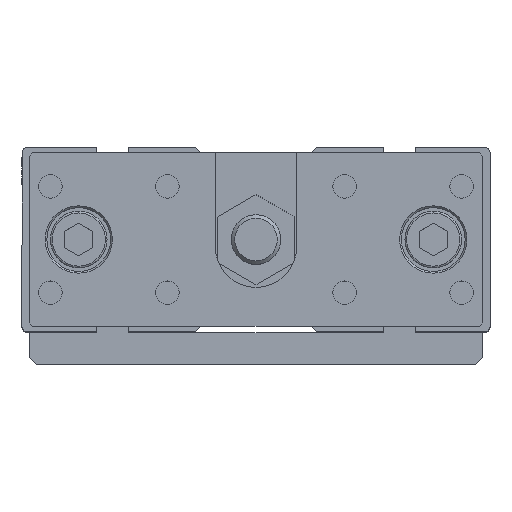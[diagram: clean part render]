
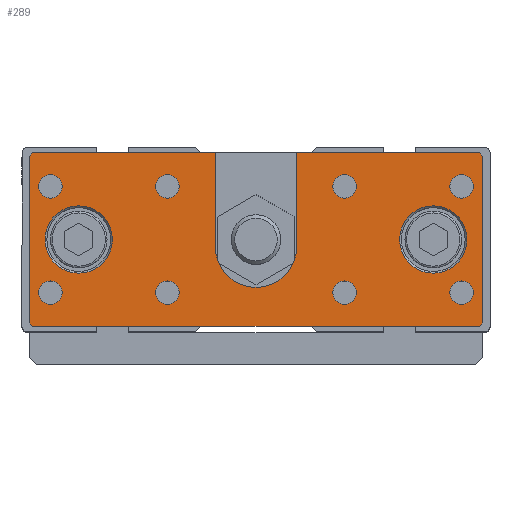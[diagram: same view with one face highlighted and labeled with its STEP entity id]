
A CAD part, top view. The second image highlights one B-rep face of the part: STEP entity #289.
In plain terms, the highlighted planar face has unit normal (0, 0, 1).
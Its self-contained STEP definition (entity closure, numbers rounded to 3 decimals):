
#59=CARTESIAN_POINT('',(-63.,-24.5,107.0));
#60=VERTEX_POINT('',#59);
#67=CARTESIAN_POINT('',(-64.0,-23.5,107.0));
#68=VERTEX_POINT('',#67);
#69=CARTESIAN_POINT('',(-63.,-24.5,107.0));
#70=DIRECTION('',(-0.707,0.707,0.0));
#71=VECTOR('',#70,1.414);
#72=LINE('',#69,#71);
#73=EDGE_CURVE('',#60,#68,#72,.T.);
#84=CARTESIAN_POINT('',(0.0,-24.5,107.0));
#85=DIRECTION('',(0.0,0.0,1.0));
#86=DIRECTION('',(1.0,0.0,0.0));
#87=AXIS2_PLACEMENT_3D('',#84,#85,#86);
#88=PLANE('',#87);
#89=ORIENTED_EDGE('',*,*,#73,.F.);
#90=CARTESIAN_POINT('',(63.,-24.5,107.0));
#91=VERTEX_POINT('',#90);
#92=CARTESIAN_POINT('',(-63.,-24.5,107.0));
#93=DIRECTION('',(1.0,0.0,0.0));
#94=VECTOR('',#93,126.);
#95=LINE('',#92,#94);
#96=EDGE_CURVE('',#60,#91,#95,.T.);
#97=ORIENTED_EDGE('',*,*,#96,.T.);
#98=CARTESIAN_POINT('',(64.0,-23.5,107.0));
#99=VERTEX_POINT('',#98);
#100=CARTESIAN_POINT('',(64.0,-23.5,107.0));
#101=DIRECTION('',(-0.707,-0.707,0.0));
#102=VECTOR('',#101,1.414);
#103=LINE('',#100,#102);
#104=EDGE_CURVE('',#99,#91,#103,.T.);
#105=ORIENTED_EDGE('',*,*,#104,.F.);
#106=CARTESIAN_POINT('',(64.0,23.5,107.0));
#107=VERTEX_POINT('',#106);
#108=CARTESIAN_POINT('',(64.0,-23.5,107.0));
#109=DIRECTION('',(0.0,1.0,0.0));
#110=VECTOR('',#109,47.);
#111=LINE('',#108,#110);
#112=EDGE_CURVE('',#99,#107,#111,.T.);
#113=ORIENTED_EDGE('',*,*,#112,.T.);
#114=CARTESIAN_POINT('',(63.,24.5,107.0));
#115=VERTEX_POINT('',#114);
#116=CARTESIAN_POINT('',(63.,24.5,107.0));
#117=DIRECTION('',(0.707,-0.707,0.0));
#118=VECTOR('',#117,1.414);
#119=LINE('',#116,#118);
#120=EDGE_CURVE('',#115,#107,#119,.T.);
#121=ORIENTED_EDGE('',*,*,#120,.F.);
#122=CARTESIAN_POINT('',(11.5,24.5,107.0));
#123=VERTEX_POINT('',#122);
#124=CARTESIAN_POINT('',(63.,24.5,107.0));
#125=DIRECTION('',(-1.0,0.0,0.0));
#126=VECTOR('',#125,51.5);
#127=LINE('',#124,#126);
#128=EDGE_CURVE('',#115,#123,#127,.T.);
#129=ORIENTED_EDGE('',*,*,#128,.T.);
#130=CARTESIAN_POINT('',(11.5,-2.,107.0));
#131=VERTEX_POINT('',#130);
#132=CARTESIAN_POINT('',(11.5,24.5,107.0));
#133=DIRECTION('',(0.0,-1.0,0.0));
#134=VECTOR('',#133,26.5);
#135=LINE('',#132,#134);
#136=EDGE_CURVE('',#123,#131,#135,.T.);
#137=ORIENTED_EDGE('',*,*,#136,.T.);
#138=CARTESIAN_POINT('',(-11.5,-2.,107.0));
#139=VERTEX_POINT('',#138);
#140=CARTESIAN_POINT('',(0.0,-2.,107.0));
#141=DIRECTION('',(0.0,0.0,-1.0));
#142=DIRECTION('',(1.0,0.0,0.0));
#143=AXIS2_PLACEMENT_3D('',#140,#141,#142);
#144=CIRCLE('',#143,11.5);
#145=EDGE_CURVE('',#131,#139,#144,.T.);
#146=ORIENTED_EDGE('',*,*,#145,.T.);
#147=CARTESIAN_POINT('',(-11.5,24.5,107.0));
#148=VERTEX_POINT('',#147);
#149=CARTESIAN_POINT('',(-11.5,-2.,107.0));
#150=DIRECTION('',(0.0,1.0,0.0));
#151=VECTOR('',#150,26.5);
#152=LINE('',#149,#151);
#153=EDGE_CURVE('',#139,#148,#152,.T.);
#154=ORIENTED_EDGE('',*,*,#153,.T.);
#155=CARTESIAN_POINT('',(-63.,24.5,107.0));
#156=VERTEX_POINT('',#155);
#157=CARTESIAN_POINT('',(-11.5,24.5,107.0));
#158=DIRECTION('',(-1.0,0.0,0.0));
#159=VECTOR('',#158,51.5);
#160=LINE('',#157,#159);
#161=EDGE_CURVE('',#148,#156,#160,.T.);
#162=ORIENTED_EDGE('',*,*,#161,.T.);
#163=CARTESIAN_POINT('',(-64.0,23.5,107.0));
#164=VERTEX_POINT('',#163);
#165=CARTESIAN_POINT('',(-64.0,23.5,107.0));
#166=DIRECTION('',(0.707,0.707,0.0));
#167=VECTOR('',#166,1.414);
#168=LINE('',#165,#167);
#169=EDGE_CURVE('',#164,#156,#168,.T.);
#170=ORIENTED_EDGE('',*,*,#169,.F.);
#171=CARTESIAN_POINT('',(-64.0,23.5,107.0));
#172=DIRECTION('',(0.0,-1.0,0.0));
#173=VECTOR('',#172,47.);
#174=LINE('',#171,#173);
#175=EDGE_CURVE('',#164,#68,#174,.T.);
#176=ORIENTED_EDGE('',*,*,#175,.T.);
#177=EDGE_LOOP('',(#89,#97,#105,#113,#121,#129,#137,#146,#154,#162,#170,#176));
#178=FACE_OUTER_BOUND('',#177,.T.);
#179=CARTESIAN_POINT('',(59.5,0.,107.0));
#180=VERTEX_POINT('',#179);
#181=CARTESIAN_POINT('',(50.0,0.0,107.0));
#182=DIRECTION('',(0.0,0.0,1.0));
#183=DIRECTION('',(-1.0,0.0,0.0));
#184=AXIS2_PLACEMENT_3D('',#181,#182,#183);
#185=CIRCLE('',#184,9.5);
#186=EDGE_CURVE('',#180,#180,#185,.T.);
#187=ORIENTED_EDGE('',*,*,#186,.F.);
#188=EDGE_LOOP('',(#187));
#189=FACE_BOUND('',#188,.T.);
#190=CARTESIAN_POINT('',(28.323,-15.0,107.0));
#191=VERTEX_POINT('',#190);
#192=CARTESIAN_POINT('',(25.0,-15.0,107.0));
#193=DIRECTION('',(0.0,0.0,-1.0));
#194=DIRECTION('',(1.0,0.0,0.0));
#195=AXIS2_PLACEMENT_3D('',#192,#193,#194);
#196=CIRCLE('',#195,3.324);
#197=EDGE_CURVE('',#191,#191,#196,.T.);
#198=ORIENTED_EDGE('',*,*,#197,.T.);
#199=EDGE_LOOP('',(#198));
#200=FACE_BOUND('',#199,.T.);
#201=CARTESIAN_POINT('',(-21.677,-15.0,107.0));
#202=VERTEX_POINT('',#201);
#203=CARTESIAN_POINT('',(-25.0,-15.0,107.0));
#204=DIRECTION('',(0.0,0.0,-1.0));
#205=DIRECTION('',(1.0,0.0,0.0));
#206=AXIS2_PLACEMENT_3D('',#203,#204,#205);
#207=CIRCLE('',#206,3.324);
#208=EDGE_CURVE('',#202,#202,#207,.T.);
#209=ORIENTED_EDGE('',*,*,#208,.T.);
#210=EDGE_LOOP('',(#209));
#211=FACE_BOUND('',#210,.T.);
#212=CARTESIAN_POINT('',(28.323,15.0,107.0));
#213=VERTEX_POINT('',#212);
#214=CARTESIAN_POINT('',(25.0,15.0,107.0));
#215=DIRECTION('',(0.0,0.0,-1.0));
#216=DIRECTION('',(1.0,0.0,0.0));
#217=AXIS2_PLACEMENT_3D('',#214,#215,#216);
#218=CIRCLE('',#217,3.324);
#219=EDGE_CURVE('',#213,#213,#218,.T.);
#220=ORIENTED_EDGE('',*,*,#219,.T.);
#221=EDGE_LOOP('',(#220));
#222=FACE_BOUND('',#221,.T.);
#223=CARTESIAN_POINT('',(61.324,-15.0,107.0));
#224=VERTEX_POINT('',#223);
#225=CARTESIAN_POINT('',(58.,-15.0,107.0));
#226=DIRECTION('',(0.0,0.0,-1.0));
#227=DIRECTION('',(1.0,0.0,0.0));
#228=AXIS2_PLACEMENT_3D('',#225,#226,#227);
#229=CIRCLE('',#228,3.324);
#230=EDGE_CURVE('',#224,#224,#229,.T.);
#231=ORIENTED_EDGE('',*,*,#230,.T.);
#232=EDGE_LOOP('',(#231));
#233=FACE_BOUND('',#232,.T.);
#234=CARTESIAN_POINT('',(-54.677,-15.0,107.0));
#235=VERTEX_POINT('',#234);
#236=CARTESIAN_POINT('',(-58.,-15.0,107.0));
#237=DIRECTION('',(0.0,0.0,-1.0));
#238=DIRECTION('',(1.0,0.0,0.0));
#239=AXIS2_PLACEMENT_3D('',#236,#237,#238);
#240=CIRCLE('',#239,3.324);
#241=EDGE_CURVE('',#235,#235,#240,.T.);
#242=ORIENTED_EDGE('',*,*,#241,.T.);
#243=EDGE_LOOP('',(#242));
#244=FACE_BOUND('',#243,.T.);
#245=CARTESIAN_POINT('',(61.324,15.0,107.0));
#246=VERTEX_POINT('',#245);
#247=CARTESIAN_POINT('',(58.,15.0,107.0));
#248=DIRECTION('',(0.0,0.0,-1.0));
#249=DIRECTION('',(1.0,0.0,0.0));
#250=AXIS2_PLACEMENT_3D('',#247,#248,#249);
#251=CIRCLE('',#250,3.324);
#252=EDGE_CURVE('',#246,#246,#251,.T.);
#253=ORIENTED_EDGE('',*,*,#252,.T.);
#254=EDGE_LOOP('',(#253));
#255=FACE_BOUND('',#254,.T.);
#256=CARTESIAN_POINT('',(-21.677,15.0,107.0));
#257=VERTEX_POINT('',#256);
#258=CARTESIAN_POINT('',(-25.0,15.0,107.0));
#259=DIRECTION('',(0.0,0.0,-1.0));
#260=DIRECTION('',(1.0,0.0,0.0));
#261=AXIS2_PLACEMENT_3D('',#258,#259,#260);
#262=CIRCLE('',#261,3.324);
#263=EDGE_CURVE('',#257,#257,#262,.T.);
#264=ORIENTED_EDGE('',*,*,#263,.T.);
#265=EDGE_LOOP('',(#264));
#266=FACE_BOUND('',#265,.T.);
#267=CARTESIAN_POINT('',(-54.677,15.0,107.0));
#268=VERTEX_POINT('',#267);
#269=CARTESIAN_POINT('',(-58.,15.0,107.0));
#270=DIRECTION('',(0.0,0.0,-1.0));
#271=DIRECTION('',(1.0,0.0,0.0));
#272=AXIS2_PLACEMENT_3D('',#269,#270,#271);
#273=CIRCLE('',#272,3.324);
#274=EDGE_CURVE('',#268,#268,#273,.T.);
#275=ORIENTED_EDGE('',*,*,#274,.T.);
#276=EDGE_LOOP('',(#275));
#277=FACE_BOUND('',#276,.T.);
#278=CARTESIAN_POINT('',(-40.5,0.,107.0));
#279=VERTEX_POINT('',#278);
#280=CARTESIAN_POINT('',(-50.0,0.0,107.0));
#281=DIRECTION('',(0.0,0.0,1.0));
#282=DIRECTION('',(-1.0,0.0,0.0));
#283=AXIS2_PLACEMENT_3D('',#280,#281,#282);
#284=CIRCLE('',#283,9.5);
#285=EDGE_CURVE('',#279,#279,#284,.T.);
#286=ORIENTED_EDGE('',*,*,#285,.F.);
#287=EDGE_LOOP('',(#286));
#288=FACE_BOUND('',#287,.T.);
#289=ADVANCED_FACE('',(#178,#189,#200,#211,#222,#233,#244,#255,#266,#277,#288),#88,.T.);
